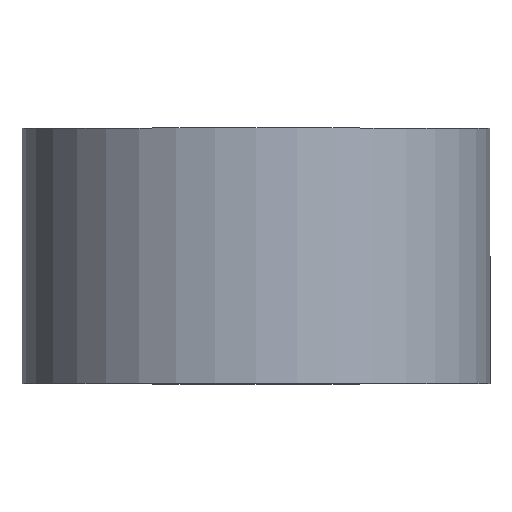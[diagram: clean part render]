
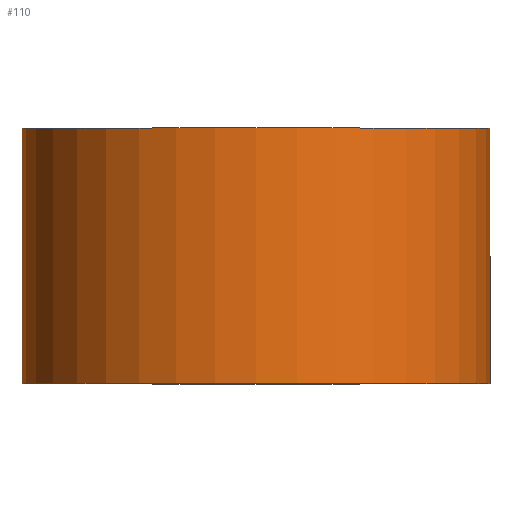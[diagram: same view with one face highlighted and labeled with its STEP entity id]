
A CAD part, top view. The second image highlights one B-rep face of the part: STEP entity #110.
In plain terms, the highlighted cylindrical face has radius 27.5 mm (diameter 55 mm), a partial arc.
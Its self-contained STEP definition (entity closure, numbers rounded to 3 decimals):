
#18 = VECTOR ( 'NONE', #51, 1000. ) ;
#22 = ORIENTED_EDGE ( 'NONE', *, *, #243, .F. ) ;
#23 = CARTESIAN_POINT ( 'NONE',  ( 27.5, 0., 0. ) ) ;
#24 = CARTESIAN_POINT ( 'NONE',  ( -27.5, 30., 0. ) ) ;
#28 = AXIS2_PLACEMENT_3D ( 'NONE', #181, #255, #275 ) ;
#31 = VERTEX_POINT ( 'NONE', #23 ) ;
#50 = ORIENTED_EDGE ( 'NONE', *, *, #100, .T. ) ;
#51 = DIRECTION ( 'NONE',  ( 0., 1., 0. ) ) ;
#55 = CARTESIAN_POINT ( 'NONE',  ( 27.5, 0., 0. ) ) ;
#56 = DIRECTION ( 'NONE',  ( 0., 1., 0. ) ) ;
#64 = AXIS2_PLACEMENT_3D ( 'NONE', #145, #82, #139 ) ;
#74 = VERTEX_POINT ( 'NONE', #158 ) ;
#82 = DIRECTION ( 'NONE',  ( 0., 1., 0. ) ) ;
#86 = VERTEX_POINT ( 'NONE', #253 ) ;
#93 = LINE ( 'NONE', #55, #194 ) ;
#100 = EDGE_CURVE ( 'NONE', #74, #31, #199, .T. ) ;
#110 = ADVANCED_FACE ( 'NONE', ( #247 ), #152, .T. ) ;
#121 = CARTESIAN_POINT ( 'NONE',  ( -27.5, 0., 0. ) ) ;
#129 = VERTEX_POINT ( 'NONE', #24 ) ;
#139 = DIRECTION ( 'NONE',  ( -1., 0., 0. ) ) ;
#140 = LINE ( 'NONE', #121, #18 ) ;
#145 = CARTESIAN_POINT ( 'NONE',  ( 0., 30., 0. ) ) ;
#152 = CYLINDRICAL_SURFACE ( 'NONE', #254, 27.5 ) ;
#155 = EDGE_CURVE ( 'NONE', #74, #129, #140, .T. ) ;
#158 = CARTESIAN_POINT ( 'NONE',  ( -27.5, 0., 0. ) ) ;
#180 = CARTESIAN_POINT ( 'NONE',  ( 0., 0., 0. ) ) ;
#181 = CARTESIAN_POINT ( 'NONE',  ( 0., 0., 0. ) ) ;
#183 = EDGE_CURVE ( 'NONE', #31, #86, #93, .T. ) ;
#194 = VECTOR ( 'NONE', #56, 1000. ) ;
#199 = CIRCLE ( 'NONE', #28, 27.5 ) ;
#200 = ORIENTED_EDGE ( 'NONE', *, *, #155, .F. ) ;
#201 = DIRECTION ( 'NONE',  ( 0., 1., 0. ) ) ;
#210 = CIRCLE ( 'NONE', #64, 27.5 ) ;
#229 = DIRECTION ( 'NONE',  ( -1., 0., 0. ) ) ;
#243 = EDGE_CURVE ( 'NONE', #129, #86, #210, .T. ) ;
#247 = FACE_OUTER_BOUND ( 'NONE', #300, .T. ) ;
#253 = CARTESIAN_POINT ( 'NONE',  ( 27.5, 30., 0. ) ) ;
#254 = AXIS2_PLACEMENT_3D ( 'NONE', #180, #201, #229 ) ;
#255 = DIRECTION ( 'NONE',  ( 0., 1., 0. ) ) ;
#268 = ORIENTED_EDGE ( 'NONE', *, *, #183, .T. ) ;
#275 = DIRECTION ( 'NONE',  ( -1., 0., 0. ) ) ;
#300 = EDGE_LOOP ( 'NONE', ( #50, #268, #22, #200 ) ) ;
